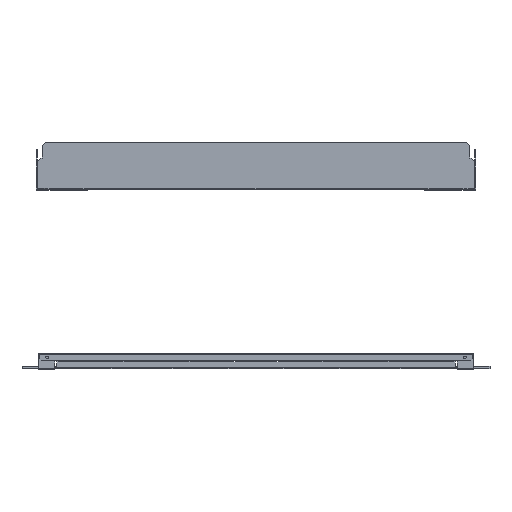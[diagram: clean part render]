
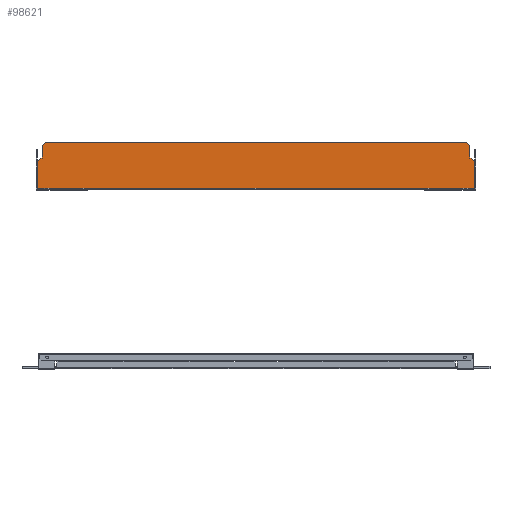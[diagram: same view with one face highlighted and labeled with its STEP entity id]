
A CAD part, front view. The second image highlights one B-rep face of the part: STEP entity #98621.
In plain terms, the highlighted planar face has unit normal (0, -1, 0).
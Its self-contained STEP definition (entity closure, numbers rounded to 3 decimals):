
#96876=CARTESIAN_POINT(' ',(347.5,-1.5,0.6));
#96877=VERTEX_POINT(' ',#96876);
#96891=CARTESIAN_POINT(' ',(347.5,-1.5,0.6));
#96896=DIRECTION(' ',(-1.,0.,0.));
#96901=VECTOR(' ',#96896,1.);
#96906=LINE('',#96891,#96901);
#96911=CARTESIAN_POINT(' ',(-347.5,-1.5,0.6));
#96912=VERTEX_POINT(' ',#96911);
#96916=EDGE_CURVE(' ',#96877,#96912,#96906,.T.);
#97056=CARTESIAN_POINT(' ',(347.5,-1.5,43.5));
#97057=VERTEX_POINT(' ',#97056);
#97071=CARTESIAN_POINT(' ',(347.5,-1.5,43.5));
#97076=DIRECTION(' ',(0.,0.,-1.));
#97081=VECTOR(' ',#97076,1.);
#97086=LINE('',#97071,#97081);
#97091=EDGE_CURVE(' ',#97057,#96877,#97086,.T.);
#98231=DIRECTION(' ',(0.,-1.,0.));
#98236=CARTESIAN_POINT(' ',(-347.5,-1.5,73.5));
#98241=DIRECTION(' ',(0.,0.,-1.));
#98246=AXIS2_PLACEMENT_3D(' ',#98236,#98231,#98241);
#98251=PLANE('NONE',#98246);
#98256=ORIENTED_EDGE(' ',*,*,#97091,.F.);
#98261=CARTESIAN_POINT(' ',(347.5,-1.5,43.5));
#98266=DIRECTION(' ',(-0.707,0.,0.707));
#98271=VECTOR(' ',#98266,1.);
#98276=LINE('',#98261,#98271);
#98281=CARTESIAN_POINT(' ',(342.5,-1.5,48.5));
#98282=VERTEX_POINT(' ',#98281);
#98286=EDGE_CURVE(' ',#97057,#98282,#98276,.T.);
#98291=ORIENTED_EDGE(' ',*,*,#98286,.T.);
#98296=CARTESIAN_POINT(' ',(340.5,-1.5,48.5));
#98301=DIRECTION(' ',(1.,0.,0.));
#98306=VECTOR(' ',#98301,1.);
#98311=LINE('',#98296,#98306);
#98316=CARTESIAN_POINT(' ',(340.5,-1.5,48.5));
#98317=VERTEX_POINT(' ',#98316);
#98321=EDGE_CURVE(' ',#98317,#98282,#98311,.T.);
#98326=ORIENTED_EDGE(' ',*,*,#98321,.F.);
#98331=CARTESIAN_POINT(' ',(340.5,-1.5,48.5));
#98336=DIRECTION(' ',(0.,0.,1.));
#98341=VECTOR(' ',#98336,1.);
#98346=LINE('',#98331,#98341);
#98351=CARTESIAN_POINT(' ',(340.5,-1.5,68.5));
#98352=VERTEX_POINT(' ',#98351);
#98356=EDGE_CURVE(' ',#98317,#98352,#98346,.T.);
#98361=ORIENTED_EDGE(' ',*,*,#98356,.T.);
#98366=CARTESIAN_POINT(' ',(340.5,-1.5,68.5));
#98371=DIRECTION(' ',(-0.707,0.,0.707));
#98376=VECTOR(' ',#98371,1.);
#98381=LINE('',#98366,#98376);
#98386=CARTESIAN_POINT(' ',(335.5,-1.5,73.5));
#98387=VERTEX_POINT(' ',#98386);
#98391=EDGE_CURVE(' ',#98352,#98387,#98381,.T.);
#98396=ORIENTED_EDGE(' ',*,*,#98391,.T.);
#98401=CARTESIAN_POINT(' ',(335.5,-1.5,73.5));
#98406=DIRECTION(' ',(-1.,0.,0.));
#98411=VECTOR(' ',#98406,1.);
#98416=LINE('',#98401,#98411);
#98421=CARTESIAN_POINT(' ',(-335.5,-1.5,73.5));
#98422=VERTEX_POINT(' ',#98421);
#98426=EDGE_CURVE(' ',#98387,#98422,#98416,.T.);
#98431=ORIENTED_EDGE(' ',*,*,#98426,.T.);
#98436=CARTESIAN_POINT(' ',(-335.5,-1.5,73.5));
#98441=DIRECTION(' ',(-0.707,0.,-0.707));
#98446=VECTOR(' ',#98441,1.);
#98451=LINE('',#98436,#98446);
#98456=CARTESIAN_POINT(' ',(-340.5,-1.5,68.5));
#98457=VERTEX_POINT(' ',#98456);
#98461=EDGE_CURVE(' ',#98422,#98457,#98451,.T.);
#98466=ORIENTED_EDGE(' ',*,*,#98461,.T.);
#98471=CARTESIAN_POINT(' ',(-340.5,-1.5,48.5));
#98476=DIRECTION(' ',(0.,0.,1.));
#98481=VECTOR(' ',#98476,1.);
#98486=LINE('',#98471,#98481);
#98491=CARTESIAN_POINT(' ',(-340.5,-1.5,48.5));
#98492=VERTEX_POINT(' ',#98491);
#98496=EDGE_CURVE(' ',#98492,#98457,#98486,.T.);
#98501=ORIENTED_EDGE(' ',*,*,#98496,.F.);
#98506=CARTESIAN_POINT(' ',(-340.5,-1.5,48.5));
#98511=DIRECTION(' ',(-1.,0.,0.));
#98516=VECTOR(' ',#98511,1.);
#98521=LINE('',#98506,#98516);
#98526=CARTESIAN_POINT(' ',(-342.5,-1.5,48.5));
#98527=VERTEX_POINT(' ',#98526);
#98531=EDGE_CURVE(' ',#98492,#98527,#98521,.T.);
#98536=ORIENTED_EDGE(' ',*,*,#98531,.T.);
#98541=CARTESIAN_POINT(' ',(-342.5,-1.5,48.5));
#98546=DIRECTION(' ',(-0.707,0.,-0.707));
#98551=VECTOR(' ',#98546,1.);
#98556=LINE('',#98541,#98551);
#98561=CARTESIAN_POINT(' ',(-347.5,-1.5,43.5));
#98562=VERTEX_POINT(' ',#98561);
#98566=EDGE_CURVE(' ',#98527,#98562,#98556,.T.);
#98571=ORIENTED_EDGE(' ',*,*,#98566,.T.);
#98576=CARTESIAN_POINT(' ',(-347.5,-1.5,0.6));
#98581=DIRECTION(' ',(0.,0.,1.));
#98586=VECTOR(' ',#98581,1.);
#98591=LINE('',#98576,#98586);
#98596=EDGE_CURVE(' ',#96912,#98562,#98591,.T.);
#98601=ORIENTED_EDGE(' ',*,*,#98596,.F.);
#98606=ORIENTED_EDGE(' ',*,*,#96916,.F.);
#98611=EDGE_LOOP(' ',(#98256,#98291,#98326,#98361,#98396,#98431,#98466,#98501,#98536,#98571,#98601,#98606));
#98616=FACE_OUTER_BOUND(' ',#98611,.T.);
#98621=ADVANCED_FACE('NONE',(#98616),#98251,.T.);
